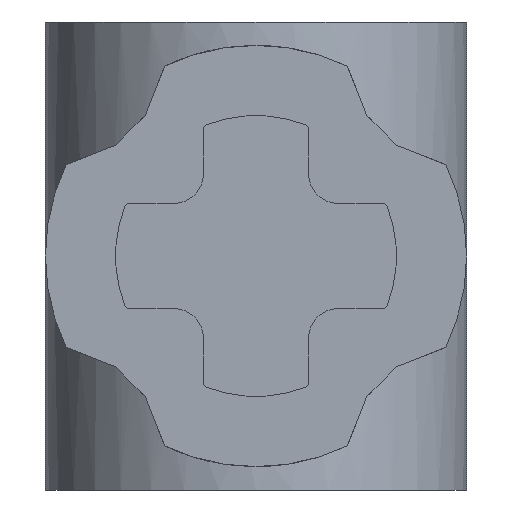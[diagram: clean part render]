
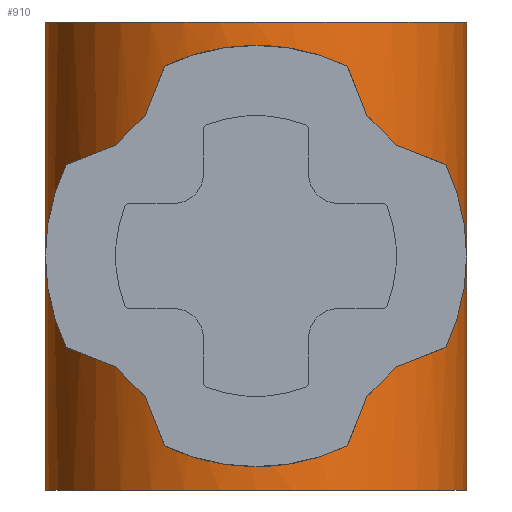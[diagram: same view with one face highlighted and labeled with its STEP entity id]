
A CAD part, front view. The second image highlights one B-rep face of the part: STEP entity #910.
In plain terms, the highlighted cylindrical face has radius 3.6 mm (diameter 7.2 mm), a full revolution.
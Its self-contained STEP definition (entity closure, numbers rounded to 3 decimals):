
#46=ELLIPSE('',#933,5.091,3.6);
#47=ELLIPSE('',#935,9.818,3.6);
#48=ELLIPSE('',#937,5.091,3.6);
#49=ELLIPSE('',#939,3.869,3.6);
#50=ELLIPSE('',#942,5.091,3.6);
#51=ELLIPSE('',#943,5.091,3.6);
#52=ELLIPSE('',#945,3.869,3.6);
#53=ELLIPSE('',#947,5.091,3.6);
#54=ELLIPSE('',#949,9.818,3.6);
#55=ELLIPSE('',#952,5.091,3.6);
#56=ELLIPSE('',#954,9.818,3.6);
#57=ELLIPSE('',#956,5.091,3.6);
#58=ELLIPSE('',#958,3.869,3.6);
#59=ELLIPSE('',#961,5.091,3.6);
#60=ELLIPSE('',#962,5.091,3.6);
#61=ELLIPSE('',#964,3.869,3.6);
#62=ELLIPSE('',#966,5.091,3.6);
#63=ELLIPSE('',#988,9.818,3.6);
#426=ORIENTED_EDGE('',*,*,#501,.T.);
#427=ORIENTED_EDGE('',*,*,#500,.T.);
#428=ORIENTED_EDGE('',*,*,#504,.T.);
#429=ORIENTED_EDGE('',*,*,#507,.T.);
#430=ORIENTED_EDGE('',*,*,#557,.T.);
#431=ORIENTED_EDGE('',*,*,#462,.T.);
#432=ORIENTED_EDGE('',*,*,#466,.T.);
#433=ORIENTED_EDGE('',*,*,#469,.T.);
#434=ORIENTED_EDGE('',*,*,#472,.T.);
#435=ORIENTED_EDGE('',*,*,#476,.T.);
#436=ORIENTED_EDGE('',*,*,#475,.T.);
#437=ORIENTED_EDGE('',*,*,#479,.T.);
#438=ORIENTED_EDGE('',*,*,#482,.T.);
#439=ORIENTED_EDGE('',*,*,#485,.T.);
#440=ORIENTED_EDGE('',*,*,#488,.T.);
#441=ORIENTED_EDGE('',*,*,#491,.T.);
#442=ORIENTED_EDGE('',*,*,#494,.T.);
#443=ORIENTED_EDGE('',*,*,#497,.T.);
#444=ORIENTED_EDGE('',*,*,#582,.T.);
#445=ORIENTED_EDGE('',*,*,#583,.F.);
#462=EDGE_CURVE('',#593,#592,#46,.F.);
#466=EDGE_CURVE('',#592,#595,#47,.F.);
#469=EDGE_CURVE('',#595,#597,#48,.F.);
#472=EDGE_CURVE('',#597,#599,#49,.F.);
#475=EDGE_CURVE('',#602,#601,#50,.T.);
#476=EDGE_CURVE('',#599,#602,#51,.F.);
#479=EDGE_CURVE('',#601,#604,#52,.F.);
#482=EDGE_CURVE('',#604,#606,#53,.F.);
#485=EDGE_CURVE('',#606,#608,#54,.F.);
#488=EDGE_CURVE('',#608,#610,#55,.T.);
#491=EDGE_CURVE('',#610,#612,#56,.F.);
#494=EDGE_CURVE('',#612,#614,#57,.F.);
#497=EDGE_CURVE('',#614,#616,#58,.F.);
#500=EDGE_CURVE('',#619,#618,#59,.F.);
#501=EDGE_CURVE('',#616,#619,#60,.T.);
#504=EDGE_CURVE('',#618,#621,#61,.F.);
#507=EDGE_CURVE('',#621,#623,#62,.F.);
#557=EDGE_CURVE('',#623,#593,#63,.F.);
#582=EDGE_CURVE('',#672,#672,#716,.T.);
#583=EDGE_CURVE('',#673,#673,#717,.T.);
#592=VERTEX_POINT('',#1343);
#593=VERTEX_POINT('',#1345);
#595=VERTEX_POINT('',#1351);
#597=VERTEX_POINT('',#1357);
#599=VERTEX_POINT('',#1363);
#601=VERTEX_POINT('',#1369);
#602=VERTEX_POINT('',#1371);
#604=VERTEX_POINT('',#1377);
#606=VERTEX_POINT('',#1383);
#608=VERTEX_POINT('',#1389);
#610=VERTEX_POINT('',#1395);
#612=VERTEX_POINT('',#1401);
#614=VERTEX_POINT('',#1407);
#616=VERTEX_POINT('',#1413);
#618=VERTEX_POINT('',#1419);
#619=VERTEX_POINT('',#1421);
#621=VERTEX_POINT('',#1427);
#623=VERTEX_POINT('',#1433);
#672=VERTEX_POINT('',#1586);
#673=VERTEX_POINT('',#1588);
#716=CIRCLE('',#1028,3.6);
#717=CIRCLE('',#1029,3.6);
#767=EDGE_LOOP('',(#426,#427,#428,#429,#430,#431,#432,#433,#434,#435,#436,
#437,#438,#439,#440,#441,#442,#443));
#768=EDGE_LOOP('',(#444));
#769=EDGE_LOOP('',(#445));
#827=FACE_BOUND('',#767,.T.);
#828=FACE_BOUND('',#768,.T.);
#829=FACE_BOUND('',#769,.T.);
#864=CYLINDRICAL_SURFACE('',#1027,3.6);
#910=ADVANCED_FACE('',(#827,#828,#829),#864,.T.);
#933=AXIS2_PLACEMENT_3D('',#1344,#1050,#1051);
#935=AXIS2_PLACEMENT_3D('',#1352,#1057,#1058);
#937=AXIS2_PLACEMENT_3D('',#1358,#1063,#1064);
#939=AXIS2_PLACEMENT_3D('',#1364,#1069,#1070);
#942=AXIS2_PLACEMENT_3D('',#1370,#1076,#1077);
#943=AXIS2_PLACEMENT_3D('',#1372,#1078,#1079);
#945=AXIS2_PLACEMENT_3D('',#1378,#1084,#1085);
#947=AXIS2_PLACEMENT_3D('',#1384,#1090,#1091);
#949=AXIS2_PLACEMENT_3D('',#1390,#1096,#1097);
#952=AXIS2_PLACEMENT_3D('',#1396,#1103,#1104);
#954=AXIS2_PLACEMENT_3D('',#1402,#1109,#1110);
#956=AXIS2_PLACEMENT_3D('',#1408,#1115,#1116);
#958=AXIS2_PLACEMENT_3D('',#1414,#1121,#1122);
#961=AXIS2_PLACEMENT_3D('',#1420,#1128,#1129);
#962=AXIS2_PLACEMENT_3D('',#1422,#1130,#1131);
#964=AXIS2_PLACEMENT_3D('',#1428,#1136,#1137);
#966=AXIS2_PLACEMENT_3D('',#1434,#1142,#1143);
#988=AXIS2_PLACEMENT_3D('',#1545,#1227,#1228);
#1027=AXIS2_PLACEMENT_3D('',#1584,#1305,#1306);
#1028=AXIS2_PLACEMENT_3D('',#1585,#1307,#1308);
#1029=AXIS2_PLACEMENT_3D('',#1587,#1309,#1310);
#1050=DIRECTION('',(0.,-0.707,-0.707));
#1051=DIRECTION('',(0.,0.707,-0.707));
#1057=DIRECTION('',(-0.93,0.,-0.367));
#1058=DIRECTION('',(0.367,0.,-0.93));
#1063=DIRECTION('',(-0.707,0.,-0.707));
#1064=DIRECTION('',(0.707,0.,-0.707));
#1069=DIRECTION('',(-0.367,0.,-0.93));
#1070=DIRECTION('',(0.93,0.,-0.367));
#1076=DIRECTION('',(0.,0.707,-0.707));
#1077=DIRECTION('',(0.,-0.707,-0.707));
#1078=DIRECTION('',(0.,-0.707,-0.707));
#1079=DIRECTION('',(0.,0.707,-0.707));
#1084=DIRECTION('',(-0.367,0.,0.93));
#1085=DIRECTION('',(-0.93,0.,-0.367));
#1090=DIRECTION('',(-0.707,0.,0.707));
#1091=DIRECTION('',(-0.707,0.,-0.707));
#1096=DIRECTION('',(-0.93,0.,0.367));
#1097=DIRECTION('',(-0.367,0.,-0.93));
#1103=DIRECTION('',(0.,0.707,-0.707));
#1104=DIRECTION('',(0.,-0.707,-0.707));
#1109=DIRECTION('',(0.93,0.,0.367));
#1110=DIRECTION('',(0.367,0.,-0.93));
#1115=DIRECTION('',(0.707,0.,0.707));
#1116=DIRECTION('',(0.707,0.,-0.707));
#1121=DIRECTION('',(0.367,0.,0.93));
#1122=DIRECTION('',(0.93,0.,-0.367));
#1128=DIRECTION('',(0.,-0.707,-0.707));
#1129=DIRECTION('',(0.,0.707,-0.707));
#1130=DIRECTION('',(0.,0.707,-0.707));
#1131=DIRECTION('',(0.,-0.707,-0.707));
#1136=DIRECTION('',(0.367,0.,-0.93));
#1137=DIRECTION('',(-0.93,0.,-0.367));
#1142=DIRECTION('',(0.707,0.,-0.707));
#1143=DIRECTION('',(-0.707,0.,-0.707));
#1227=DIRECTION('',(0.93,0.,-0.367));
#1228=DIRECTION('',(-0.367,0.,-0.93));
#1305=DIRECTION('',(0.,0.,-1.));
#1306=DIRECTION('',(-1.,0.,0.));
#1307=DIRECTION('',(0.,0.,-1.));
#1308=DIRECTION('',(1.,0.,0.));
#1309=DIRECTION('',(0.,0.,-1.));
#1310=DIRECTION('',(1.,0.,0.));
#1343=CARTESIAN_POINT('',(1.562,8.757,3.243));
#1344=CARTESIAN_POINT('',(0.,12.,0.));
#1345=CARTESIAN_POINT('',(-1.562,8.757,3.243));
#1351=CARTESIAN_POINT('',(1.894,8.938,2.403));
#1352=CARTESIAN_POINT('',(0.,12.,7.208));
#1357=CARTESIAN_POINT('',(2.403,9.319,1.894));
#1358=CARTESIAN_POINT('',(0.,12.,4.296));
#1363=CARTESIAN_POINT('',(3.243,10.438,1.562));
#1364=CARTESIAN_POINT('',(0.,12.,2.841));
#1369=CARTESIAN_POINT('',(3.243,10.438,-1.562));
#1370=CARTESIAN_POINT('',(0.,12.,0.));
#1371=CARTESIAN_POINT('',(3.6,12.,0.));
#1372=CARTESIAN_POINT('',(0.,12.,0.));
#1377=CARTESIAN_POINT('',(2.403,9.319,-1.894));
#1378=CARTESIAN_POINT('',(0.,12.,-2.841));
#1383=CARTESIAN_POINT('',(1.894,8.938,-2.403));
#1384=CARTESIAN_POINT('',(0.,12.,-4.296));
#1389=CARTESIAN_POINT('',(1.562,8.757,-3.243));
#1390=CARTESIAN_POINT('',(0.,12.,-7.208));
#1395=CARTESIAN_POINT('',(-1.562,8.757,-3.243));
#1396=CARTESIAN_POINT('',(0.,12.,0.));
#1401=CARTESIAN_POINT('',(-1.894,8.938,-2.403));
#1402=CARTESIAN_POINT('',(0.,12.,-7.208));
#1407=CARTESIAN_POINT('',(-2.403,9.319,-1.894));
#1408=CARTESIAN_POINT('',(0.,12.,-4.296));
#1413=CARTESIAN_POINT('',(-3.243,10.438,-1.562));
#1414=CARTESIAN_POINT('',(0.,12.,-2.841));
#1419=CARTESIAN_POINT('',(-3.243,10.438,1.562));
#1420=CARTESIAN_POINT('',(0.,12.,0.));
#1421=CARTESIAN_POINT('',(-3.6,12.,0.));
#1422=CARTESIAN_POINT('',(0.,12.,0.));
#1427=CARTESIAN_POINT('',(-2.403,9.319,1.894));
#1428=CARTESIAN_POINT('',(0.,12.,2.841));
#1433=CARTESIAN_POINT('',(-1.894,8.938,2.403));
#1434=CARTESIAN_POINT('',(0.,12.,4.296));
#1545=CARTESIAN_POINT('',(0.,12.,7.208));
#1584=CARTESIAN_POINT('',(0.,12.,4.));
#1585=CARTESIAN_POINT('',(0.,12.,4.));
#1586=CARTESIAN_POINT('',(3.6,12.,4.));
#1587=CARTESIAN_POINT('',(0.,12.,-4.));
#1588=CARTESIAN_POINT('',(3.6,12.,-4.));
